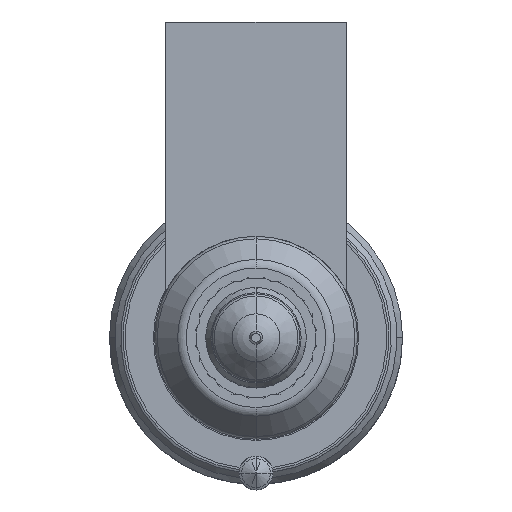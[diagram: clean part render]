
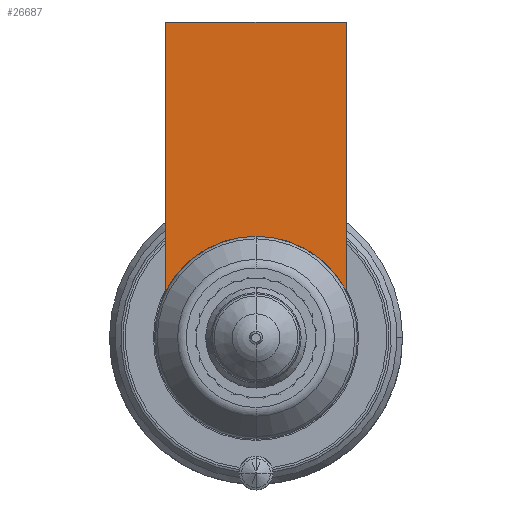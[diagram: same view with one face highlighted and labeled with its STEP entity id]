
A CAD part, front view. The second image highlights one B-rep face of the part: STEP entity #26687.
In plain terms, the highlighted planar face has unit normal (0, -1, 0).
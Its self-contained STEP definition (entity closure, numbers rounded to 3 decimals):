
#25808=DIRECTION('',(1.,0.,0.));
#25809=VECTOR('',#25808,16.);
#25810=CARTESIAN_POINT('',(-8.,-54.,28.));
#25811=LINE('',#25810,#25809);
#25816=CARTESIAN_POINT('',(0.,-54.,0.));
#25817=DIRECTION('',(0.,-1.,0.));
#25818=DIRECTION('',(0.889,0.,0.458));
#25819=AXIS2_PLACEMENT_3D('',#25816,#25817,#25818);
#25824=CARTESIAN_POINT('',(0.,-54.,0.));
#25825=DIRECTION('',(0.,-1.,0.));
#25826=DIRECTION('',(0.,0.,1.));
#25827=AXIS2_PLACEMENT_3D('',#25824,#25825,#25826);
#25853=DIRECTION('',(0.,0.,-1.));
#25854=VECTOR('',#25853,23.877);
#25855=CARTESIAN_POINT('',(-8.,-54.,28.));
#25856=LINE('',#25855,#25854);
#26531=DIRECTION('',(0.,0.,-1.));
#26532=VECTOR('',#26531,23.877);
#26533=CARTESIAN_POINT('',(8.,-54.,28.));
#26534=LINE('',#26533,#26532);
#26584=CARTESIAN_POINT('',(-8.,-54.,28.));
#26585=VERTEX_POINT('',#26584);
#26590=CARTESIAN_POINT('',(8.,-54.,28.));
#26591=VERTEX_POINT('',#26590);
#26594=CARTESIAN_POINT('',(-8.,-54.,4.123));
#26595=VERTEX_POINT('',#26594);
#26598=CARTESIAN_POINT('',(8.,-54.,4.123));
#26599=VERTEX_POINT('',#26598);
#26668=CARTESIAN_POINT('',(0.,-54.,9.));
#26669=VERTEX_POINT('',#26668);
#26670=CARTESIAN_POINT('',(0.,-54.,9.));
#26671=DIRECTION('',(0.,1.,0.));
#26672=DIRECTION('',(0.,0.,-1.));
#26673=AXIS2_PLACEMENT_3D('',#26670,#26671,#26672);
#26674=PLANE('',#26673);
#26676=ORIENTED_EDGE('',*,*,#26675,.F.);
#26678=ORIENTED_EDGE('',*,*,#26677,.T.);
#26680=ORIENTED_EDGE('',*,*,#26679,.T.);
#26682=ORIENTED_EDGE('',*,*,#26681,.T.);
#26684=ORIENTED_EDGE('',*,*,#26683,.T.);
#26685=EDGE_LOOP('',(#26676,#26678,#26680,#26682,#26684));
#26686=FACE_OUTER_BOUND('',#26685,.F.);
#26687=ADVANCED_FACE('',(#26686),#26674,.F.);
#25820=CIRCLE('',#25819,9.);
#25828=CIRCLE('',#25827,9.);
#26675=EDGE_CURVE('',#26585,#26595,#25856,.T.);
#26677=EDGE_CURVE('',#26585,#26591,#25811,.T.);
#26679=EDGE_CURVE('',#26591,#26599,#26534,.T.);
#26681=EDGE_CURVE('',#26599,#26669,#25820,.T.);
#26683=EDGE_CURVE('',#26669,#26595,#25828,.T.);
